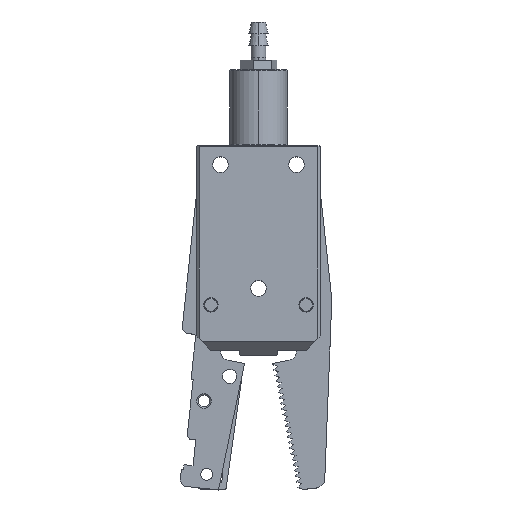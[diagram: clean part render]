
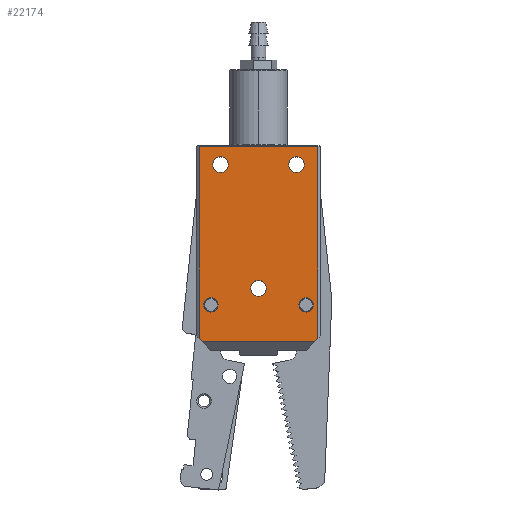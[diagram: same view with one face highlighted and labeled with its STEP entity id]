
A CAD part, top view. The second image highlights one B-rep face of the part: STEP entity #22174.
In plain terms, the highlighted planar face has unit normal (0, 0, 1).
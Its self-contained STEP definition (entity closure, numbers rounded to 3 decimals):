
#131 = FACE_BOUND ( 'NONE', #20009, .T. ) ;
#324 = EDGE_CURVE ( 'NONE', #19277, #9085, #23058, .T. ) ;
#432 = PLANE ( 'NONE',  #8665 ) ;
#750 = AXIS2_PLACEMENT_3D ( 'NONE', #7748, #7675, #7658 ) ;
#951 = CIRCLE ( 'NONE', #20991, 1.5 ) ;
#1568 = CIRCLE ( 'NONE', #20974, 1.65 ) ;
#2117 = ORIENTED_EDGE ( 'NONE', *, *, #8809, .F. ) ;
#2243 = CARTESIAN_POINT ( 'NONE',  ( 3.481, -20.571, 66.7 ) ) ;
#2421 = EDGE_CURVE ( 'NONE', #9085, #4273, #4950, .T. ) ;
#2554 = DIRECTION ( 'NONE',  ( 0., 0., -1. ) ) ;
#2710 = DIRECTION ( 'NONE',  ( -1., 0., 0. ) ) ;
#3229 = ORIENTED_EDGE ( 'NONE', *, *, #3539, .F. ) ;
#3364 = CARTESIAN_POINT ( 'NONE',  ( -9.019, -7.771, 66.7 ) ) ;
#3421 = DIRECTION ( 'NONE',  ( 0., 0., -1. ) ) ;
#3469 = VECTOR ( 'NONE', #13880, 1000. ) ;
#3539 = EDGE_CURVE ( 'NONE', #4273, #11046, #19335, .T. ) ;
#3790 = CIRCLE ( 'NONE', #20459, 1.65 ) ;
#3893 = CARTESIAN_POINT ( 'NONE',  ( -20.869, -20.571, 66.7 ) ) ;
#4158 = ORIENTED_EDGE ( 'NONE', *, *, #2421, .F. ) ;
#4273 = VERTEX_POINT ( 'NONE', #21732 ) ;
#4450 = ORIENTED_EDGE ( 'NONE', *, *, #18605, .F. ) ;
#4672 = CARTESIAN_POINT ( 'NONE',  ( -19.019, -12.921, 66.7 ) ) ;
#4689 = DIRECTION ( 'NONE',  ( -0.707, -0.707, 0. ) ) ;
#4787 = CARTESIAN_POINT ( 'NONE',  ( -17.019, 14.929, 66.7 ) ) ;
#4900 = FACE_OUTER_BOUND ( 'NONE', #6195, .T. ) ;
#4950 = LINE ( 'NONE', #5427, #18762 ) ;
#5036 = EDGE_LOOP ( 'NONE', ( #18545, #17706 ) ) ;
#5194 = CARTESIAN_POINT ( 'NONE',  ( -9.019, -11.071, 66.7 ) ) ;
#5235 = DIRECTION ( 'NONE',  ( 0., 1., 0. ) ) ;
#5285 = DIRECTION ( 'NONE',  ( 0., 0., 1. ) ) ;
#5310 = CARTESIAN_POINT ( 'NONE',  ( -19.019, -12.921, 66.7 ) ) ;
#5427 = CARTESIAN_POINT ( 'NONE',  ( 3.481, 20.379, 66.7 ) ) ;
#5474 = DIRECTION ( 'NONE',  ( 0., 0., 1. ) ) ;
#5531 = DIRECTION ( 'NONE',  ( 1., 0., 0. ) ) ;
#5606 = DIRECTION ( 'NONE',  ( 0., 1., 0. ) ) ;
#5854 = CARTESIAN_POINT ( 'NONE',  ( -19.019, -11.421, 66.7 ) ) ;
#6195 = EDGE_LOOP ( 'NONE', ( #7297, #4450, #3229, #4158, #6301, #2117 ) ) ;
#6301 = ORIENTED_EDGE ( 'NONE', *, *, #324, .F. ) ;
#6654 = CARTESIAN_POINT ( 'NONE',  ( 3.481, -19.921, 66.7 ) ) ;
#7105 = CARTESIAN_POINT ( 'NONE',  ( -1.019, 14.929, 66.7 ) ) ;
#7297 = ORIENTED_EDGE ( 'NONE', *, *, #16942, .F. ) ;
#7658 = DIRECTION ( 'NONE',  ( 0., 1., 0. ) ) ;
#7663 = CARTESIAN_POINT ( 'NONE',  ( -21.519, -19.921, 66.7 ) ) ;
#7666 = AXIS2_PLACEMENT_3D ( 'NONE', #5310, #5285, #5235 ) ;
#7675 = DIRECTION ( 'NONE',  ( 0., 0., 1. ) ) ;
#7708 = VERTEX_POINT ( 'NONE', #3364 ) ;
#7748 = CARTESIAN_POINT ( 'NONE',  ( 0.981, -12.921, 66.7 ) ) ;
#7909 = CARTESIAN_POINT ( 'NONE',  ( 3.481, -19.921, 66.7 ) ) ;
#7926 = LINE ( 'NONE', #6654, #21948 ) ;
#8256 = LINE ( 'NONE', #13718, #3469 ) ;
#8427 = VECTOR ( 'NONE', #15293, 1000. ) ;
#8665 = AXIS2_PLACEMENT_3D ( 'NONE', #2243, #2554, #2710 ) ;
#8809 = EDGE_CURVE ( 'NONE', #12798, #19277, #8256, .T. ) ;
#9019 = EDGE_LOOP ( 'NONE', ( #22124, #21731 ) ) ;
#9085 = VERTEX_POINT ( 'NONE', #9545 ) ;
#9426 = CARTESIAN_POINT ( 'NONE',  ( -17.019, 18.229, 66.7 ) ) ;
#9545 = CARTESIAN_POINT ( 'NONE',  ( -21.519, 20.379, 66.7 ) ) ;
#9578 = CIRCLE ( 'NONE', #750, 1.5 ) ;
#9639 = FACE_BOUND ( 'NONE', #9892, .T. ) ;
#9784 = AXIS2_PLACEMENT_3D ( 'NONE', #15219, #15062, #14992 ) ;
#9787 = DIRECTION ( 'NONE',  ( 0., 1., 0. ) ) ;
#9867 = DIRECTION ( 'NONE',  ( 0., 0., -1. ) ) ;
#9892 = EDGE_LOOP ( 'NONE', ( #20586, #20342 ) ) ;
#10022 = CARTESIAN_POINT ( 'NONE',  ( -17.019, 16.579, 66.7 ) ) ;
#10555 = VERTEX_POINT ( 'NONE', #19077 ) ;
#10873 = CIRCLE ( 'NONE', #9784, 1.5 ) ;
#11046 = VERTEX_POINT ( 'NONE', #7909 ) ;
#11357 = CARTESIAN_POINT ( 'NONE',  ( 0.981, -14.421, 66.7 ) ) ;
#11587 = CARTESIAN_POINT ( 'NONE',  ( -1.019, 18.229, 66.7 ) ) ;
#11980 = DIRECTION ( 'NONE',  ( 0., 1., 0. ) ) ;
#12025 = DIRECTION ( 'NONE',  ( 0., 0., -1. ) ) ;
#12110 = CARTESIAN_POINT ( 'NONE',  ( -9.019, -9.421, 66.7 ) ) ;
#12325 = CIRCLE ( 'NONE', #12710, 1.65 ) ;
#12524 = VERTEX_POINT ( 'NONE', #11357 ) ;
#12710 = AXIS2_PLACEMENT_3D ( 'NONE', #12110, #12025, #11980 ) ;
#12798 = VERTEX_POINT ( 'NONE', #3893 ) ;
#12923 = VERTEX_POINT ( 'NONE', #5854 ) ;
#13014 = VERTEX_POINT ( 'NONE', #4787 ) ;
#13024 = AXIS2_PLACEMENT_3D ( 'NONE', #19339, #19307, #19250 ) ;
#13046 = EDGE_CURVE ( 'NONE', #13171, #15275, #3790, .T. ) ;
#13136 = EDGE_CURVE ( 'NONE', #15275, #13171, #1568, .T. ) ;
#13171 = VERTEX_POINT ( 'NONE', #11587 ) ;
#13202 = CIRCLE ( 'NONE', #15976, 1.65 ) ;
#13390 = VERTEX_POINT ( 'NONE', #16951 ) ;
#13718 = CARTESIAN_POINT ( 'NONE',  ( -20.869, -20.571, 66.7 ) ) ;
#13880 = DIRECTION ( 'NONE',  ( -0.707, 0.707, 0. ) ) ;
#13895 = EDGE_CURVE ( 'NONE', #12923, #10555, #951, .T. ) ;
#13963 = EDGE_CURVE ( 'NONE', #7708, #20778, #18382, .T. ) ;
#14291 = DIRECTION ( 'NONE',  ( 0., 1., 0. ) ) ;
#14420 = FACE_BOUND ( 'NONE', #17001, .T. ) ;
#14992 = DIRECTION ( 'NONE',  ( 0., 1., 0. ) ) ;
#15033 = EDGE_CURVE ( 'NONE', #13014, #18708, #13202, .T. ) ;
#15062 = DIRECTION ( 'NONE',  ( 0., 0., 1. ) ) ;
#15219 = CARTESIAN_POINT ( 'NONE',  ( 0.981, -12.921, 66.7 ) ) ;
#15275 = VERTEX_POINT ( 'NONE', #7105 ) ;
#15293 = DIRECTION ( 'NONE',  ( 0., 1., 0. ) ) ;
#15566 = EDGE_CURVE ( 'NONE', #18708, #13014, #15759, .T. ) ;
#15704 = EDGE_CURVE ( 'NONE', #20778, #7708, #12325, .T. ) ;
#15759 = CIRCLE ( 'NONE', #13024, 1.65 ) ;
#15976 = AXIS2_PLACEMENT_3D ( 'NONE', #10022, #9867, #9787 ) ;
#16263 = CIRCLE ( 'NONE', #7666, 1.5 ) ;
#16296 = EDGE_CURVE ( 'NONE', #12524, #13390, #10873, .T. ) ;
#16309 = CARTESIAN_POINT ( 'NONE',  ( -1.019, 16.579, 66.7 ) ) ;
#16433 = DIRECTION ( 'NONE',  ( 0., 0., -1. ) ) ;
#16661 = EDGE_CURVE ( 'NONE', #10555, #12923, #16263, .T. ) ;
#16942 = EDGE_CURVE ( 'NONE', #20943, #12798, #23581, .T. ) ;
#16951 = CARTESIAN_POINT ( 'NONE',  ( 0.981, -11.421, 66.7 ) ) ;
#16957 = DIRECTION ( 'NONE',  ( 0., 1., 0. ) ) ;
#17001 = EDGE_LOOP ( 'NONE', ( #23013, #22150 ) ) ;
#17706 = ORIENTED_EDGE ( 'NONE', *, *, #15704, .T. ) ;
#18241 = DIRECTION ( 'NONE',  ( -1., 0., 0. ) ) ;
#18382 = CIRCLE ( 'NONE', #20812, 1.65 ) ;
#18539 = EDGE_CURVE ( 'NONE', #13390, #12524, #9578, .T. ) ;
#18545 = ORIENTED_EDGE ( 'NONE', *, *, #13963, .T. ) ;
#18605 = EDGE_CURVE ( 'NONE', #11046, #20943, #7926, .T. ) ;
#18700 = FACE_BOUND ( 'NONE', #5036, .T. ) ;
#18708 = VERTEX_POINT ( 'NONE', #9426 ) ;
#18740 = VECTOR ( 'NONE', #22297, 1000. ) ;
#18762 = VECTOR ( 'NONE', #5531, 1000. ) ;
#18840 = ORIENTED_EDGE ( 'NONE', *, *, #15033, .T. ) ;
#19031 = ORIENTED_EDGE ( 'NONE', *, *, #15566, .T. ) ;
#19077 = CARTESIAN_POINT ( 'NONE',  ( -19.019, -14.421, 66.7 ) ) ;
#19250 = DIRECTION ( 'NONE',  ( 0., 1., 0. ) ) ;
#19277 = VERTEX_POINT ( 'NONE', #7663 ) ;
#19278 = CARTESIAN_POINT ( 'NONE',  ( 3.481, -20.571, 66.7 ) ) ;
#19307 = DIRECTION ( 'NONE',  ( 0., 0., -1. ) ) ;
#19335 = LINE ( 'NONE', #22818, #18740 ) ;
#19339 = CARTESIAN_POINT ( 'NONE',  ( -17.019, 16.579, 66.7 ) ) ;
#19891 = FACE_BOUND ( 'NONE', #9019, .T. ) ;
#20009 = EDGE_LOOP ( 'NONE', ( #19031, #18840 ) ) ;
#20049 = CARTESIAN_POINT ( 'NONE',  ( -9.019, -9.421, 66.7 ) ) ;
#20138 = DIRECTION ( 'NONE',  ( 0., 0., -1. ) ) ;
#20342 = ORIENTED_EDGE ( 'NONE', *, *, #13136, .T. ) ;
#20459 = AXIS2_PLACEMENT_3D ( 'NONE', #16309, #16433, #16957 ) ;
#20586 = ORIENTED_EDGE ( 'NONE', *, *, #13046, .T. ) ;
#20778 = VERTEX_POINT ( 'NONE', #5194 ) ;
#20812 = AXIS2_PLACEMENT_3D ( 'NONE', #20049, #20138, #22003 ) ;
#20943 = VERTEX_POINT ( 'NONE', #22139 ) ;
#20949 = CARTESIAN_POINT ( 'NONE',  ( -21.519, -20.571, 66.7 ) ) ;
#20974 = AXIS2_PLACEMENT_3D ( 'NONE', #22132, #3421, #14291 ) ;
#20991 = AXIS2_PLACEMENT_3D ( 'NONE', #4672, #5474, #5606 ) ;
#21731 = ORIENTED_EDGE ( 'NONE', *, *, #16296, .F. ) ;
#21732 = CARTESIAN_POINT ( 'NONE',  ( 3.481, 20.379, 66.7 ) ) ;
#21948 = VECTOR ( 'NONE', #4689, 1000. ) ;
#22003 = DIRECTION ( 'NONE',  ( 0., 1., 0. ) ) ;
#22124 = ORIENTED_EDGE ( 'NONE', *, *, #18539, .F. ) ;
#22132 = CARTESIAN_POINT ( 'NONE',  ( -1.019, 16.579, 66.7 ) ) ;
#22139 = CARTESIAN_POINT ( 'NONE',  ( 2.831, -20.571, 66.7 ) ) ;
#22150 = ORIENTED_EDGE ( 'NONE', *, *, #16661, .F. ) ;
#22174 = ADVANCED_FACE ( 'NONE', ( #4900, #14420, #19891, #9639, #131, #18700 ), #432, .F. ) ;
#22297 = DIRECTION ( 'NONE',  ( 0., -1., 0. ) ) ;
#22818 = CARTESIAN_POINT ( 'NONE',  ( 3.481, -20.571, 66.7 ) ) ;
#23013 = ORIENTED_EDGE ( 'NONE', *, *, #13895, .F. ) ;
#23020 = VECTOR ( 'NONE', #18241, 1000. ) ;
#23058 = LINE ( 'NONE', #20949, #8427 ) ;
#23581 = LINE ( 'NONE', #19278, #23020 ) ;
